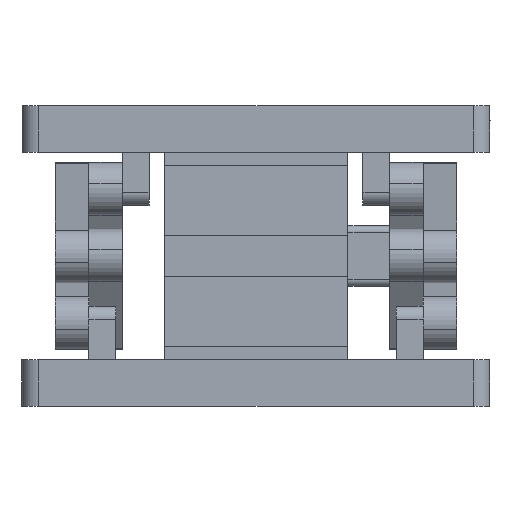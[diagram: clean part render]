
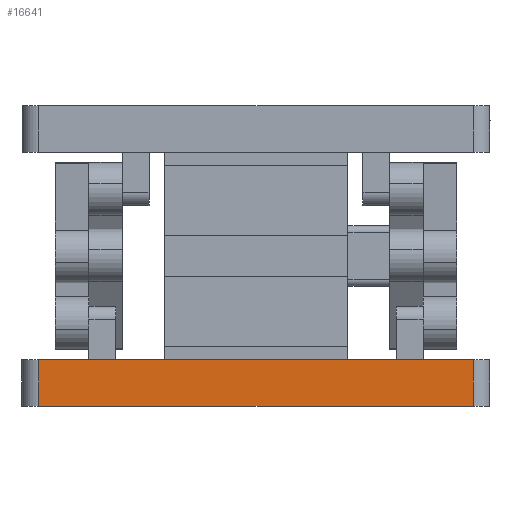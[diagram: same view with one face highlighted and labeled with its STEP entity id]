
A CAD part, left-side view. The second image highlights one B-rep face of the part: STEP entity #16641.
In plain terms, the highlighted planar face has unit normal (-1, 0, 0).
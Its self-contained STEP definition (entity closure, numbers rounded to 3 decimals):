
#381 = DIRECTION ( 'NONE',  ( 0., 0., -1. ) ) ;
#466 = LINE ( 'NONE', #11777, #16868 ) ;
#488 = VECTOR ( 'NONE', #4989, 1000. ) ;
#515 = CARTESIAN_POINT ( 'NONE',  ( -110., 0., 0. ) ) ;
#959 = VERTEX_POINT ( 'NONE', #1261 ) ;
#1145 = FACE_OUTER_BOUND ( 'NONE', #4521, .T. ) ;
#1261 = CARTESIAN_POINT ( 'NONE',  ( -110., -65., 14. ) ) ;
#1487 = CARTESIAN_POINT ( 'NONE',  ( -110., -65., 0. ) ) ;
#1491 = EDGE_CURVE ( 'NONE', #2033, #959, #10834, .T. ) ;
#1653 = ORIENTED_EDGE ( 'NONE', *, *, #11673, .F. ) ;
#2033 = VERTEX_POINT ( 'NONE', #4341 ) ;
#2698 = ORIENTED_EDGE ( 'NONE', *, *, #17390, .F. ) ;
#2829 = CARTESIAN_POINT ( 'NONE',  ( -110., 70., 14. ) ) ;
#3037 = PLANE ( 'NONE',  #17272 ) ;
#3185 = ORIENTED_EDGE ( 'NONE', *, *, #1491, .F. ) ;
#4140 = CARTESIAN_POINT ( 'NONE',  ( -110., 70., 14. ) ) ;
#4341 = CARTESIAN_POINT ( 'NONE',  ( -110., 65., 14. ) ) ;
#4521 = EDGE_LOOP ( 'NONE', ( #1653, #14992, #2698, #3185 ) ) ;
#4905 = DIRECTION ( 'NONE',  ( 0., 0., -1. ) ) ;
#4989 = DIRECTION ( 'NONE',  ( 0., -1., 0. ) ) ;
#5412 = VECTOR ( 'NONE', #9245, 1000. ) ;
#8267 = DIRECTION ( 'NONE',  ( 0., -1., 0. ) ) ;
#9245 = DIRECTION ( 'NONE',  ( 0., 0., 1. ) ) ;
#9296 = EDGE_CURVE ( 'NONE', #17768, #17550, #16888, .T. ) ;
#10834 = LINE ( 'NONE', #2829, #14067 ) ;
#11673 = EDGE_CURVE ( 'NONE', #17768, #2033, #14227, .T. ) ;
#11777 = CARTESIAN_POINT ( 'NONE',  ( -110., -65., 14. ) ) ;
#13222 = CARTESIAN_POINT ( 'NONE',  ( -110., 65., 14. ) ) ;
#13781 = DIRECTION ( 'NONE',  ( 1., 0., 0. ) ) ;
#14067 = VECTOR ( 'NONE', #8267, 1000. ) ;
#14227 = LINE ( 'NONE', #13222, #5412 ) ;
#14992 = ORIENTED_EDGE ( 'NONE', *, *, #9296, .T. ) ;
#16641 = ADVANCED_FACE ( 'NONE', ( #1145 ), #3037, .F. ) ;
#16868 = VECTOR ( 'NONE', #4905, 1000. ) ;
#16888 = LINE ( 'NONE', #515, #488 ) ;
#17162 = CARTESIAN_POINT ( 'NONE',  ( -110., 65., 0. ) ) ;
#17272 = AXIS2_PLACEMENT_3D ( 'NONE', #4140, #13781, #381 ) ;
#17390 = EDGE_CURVE ( 'NONE', #959, #17550, #466, .T. ) ;
#17550 = VERTEX_POINT ( 'NONE', #1487 ) ;
#17768 = VERTEX_POINT ( 'NONE', #17162 ) ;
